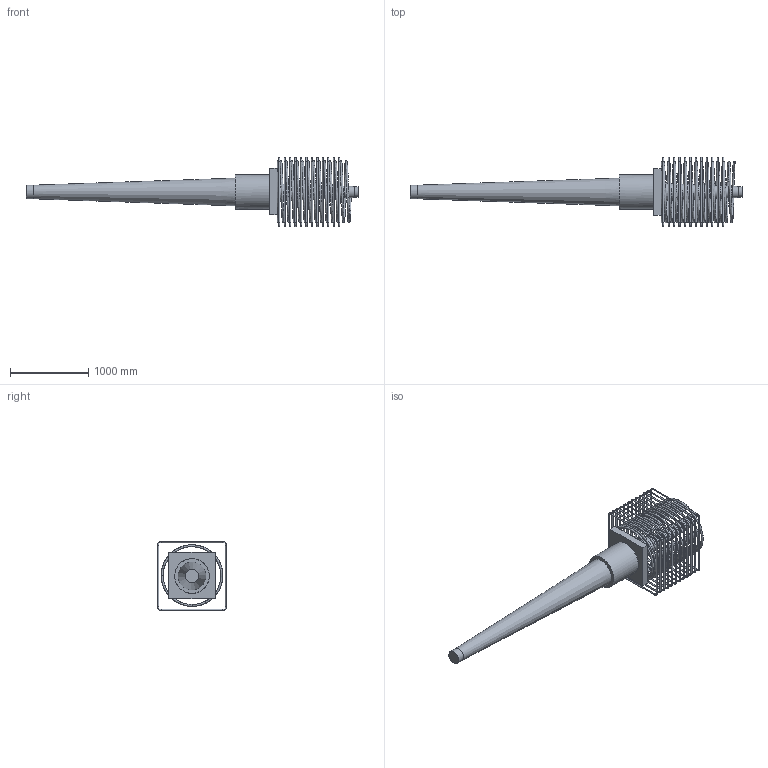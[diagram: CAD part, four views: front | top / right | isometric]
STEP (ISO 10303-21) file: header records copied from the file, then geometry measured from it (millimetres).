
FILE_DESCRIPTION(/* description */ (''),/* implementation_level */ '2;1');
FILE_NAME(/* name */ 'Z:\04 Publications\05 Give-out\BBR\6_3D_Models\BBR VT CONA CMI\BBR VT CONA CMI SP\05506\BBR VT CONA CMI SP 5506_Coupler H Assembly_CS-34,28.stp',/* time_stamp */ '2017-05-09T10:36:49+02:00',/* author */ ('IP'),/* organization */ (''),/* preprocessor_version */ 'ST-DEVELOPER v16.1',/* originating_system */ 'Autodesk Inventor 2016',/* authorisation */ '');
FILE_SCHEMA (('AUTOMOTIVE_DESIGN { 1 0 10303 214 3 1 1 }'));
Products named in the file (1): BBR VT CONA CMI SP 5506_Coupler H Assembly_CS-34,28
Bounding box: 4255.05 x 885 x 885 mm (x, y, z)
Volume: 303550021.5 mm3; surface area: 8936433.5 mm2
Topology: 14 solids, 14 shells, 834 faces, 2189 edges, 1424 vertices
Faces by surface type: bspline 400, plane 260, cylinder 118, torus 54, cone 2
Full cylindrical faces by diameter (mm): 16 x48, 139 x1, 149 x1, 159 x1, 169 x1, 175 x1, 179 x1, 443 x1
Entity records: 41124 total; most frequent: CARTESIAN_POINT 23220, ORIENTED_EDGE 4158, DIRECTION 2498, EDGE_CURVE 2076, VERTEX_POINT 1422, EDGE_LOOP 1015, LINE 920, VECTOR 920
